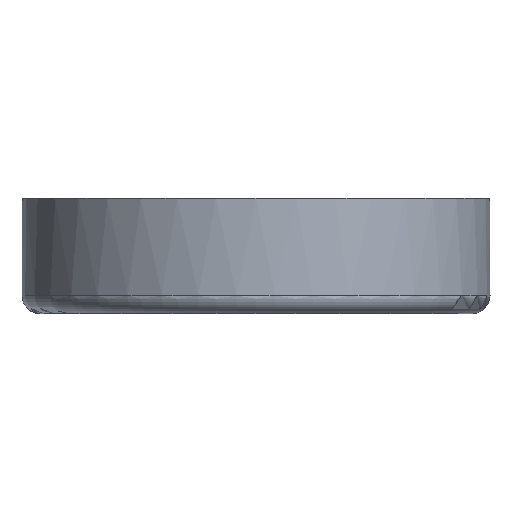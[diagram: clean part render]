
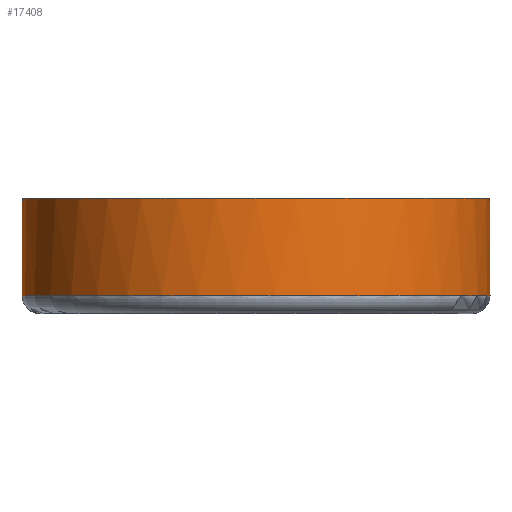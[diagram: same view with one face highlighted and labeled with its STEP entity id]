
A CAD part, front view. The second image highlights one B-rep face of the part: STEP entity #17408.
In plain terms, the highlighted cylindrical face has radius 65 mm (diameter 130 mm), a partial arc.
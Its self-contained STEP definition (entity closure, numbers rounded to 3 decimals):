
#1462=CARTESIAN_POINT('',(0.,0.,32.));
#1463=DIRECTION('',(0.,0.,-1.));
#1464=DIRECTION('',(0.788,0.615,0.));
#1465=AXIS2_PLACEMENT_3D('',#1462,#1463,#1464);
#1558=DIRECTION('',(0.,0.,-1.));
#1559=VECTOR('',#1558,27.);
#1560=CARTESIAN_POINT('',(51.235,40.,32.));
#1561=LINE('',#1560,#1559);
#1565=DIRECTION('',(0.,0.,1.));
#1566=VECTOR('',#1565,27.);
#1567=CARTESIAN_POINT('',(-51.235,40.,5.));
#1568=LINE('',#1567,#1566);
#6438=CARTESIAN_POINT('',(0.,0.,5.));
#6439=DIRECTION('',(0.,0.,-1.));
#6440=DIRECTION('',(-1.,0.,0.));
#6441=AXIS2_PLACEMENT_3D('',#6438,#6439,#6440);
#6446=CARTESIAN_POINT('',(0.,0.,5.));
#6447=DIRECTION('',(0.,0.,-1.));
#6448=DIRECTION('',(0.788,-0.615,0.));
#6449=AXIS2_PLACEMENT_3D('',#6446,#6447,#6448);
#6454=CARTESIAN_POINT('',(0.,0.,5.));
#6455=DIRECTION('',(0.,0.,-1.));
#6456=DIRECTION('',(1.,0.,0.));
#6457=AXIS2_PLACEMENT_3D('',#6454,#6455,#6456);
#6462=CARTESIAN_POINT('',(0.,0.,5.));
#6463=DIRECTION('',(0.,0.,-1.));
#6464=DIRECTION('',(0.788,0.615,0.));
#6465=AXIS2_PLACEMENT_3D('',#6462,#6463,#6464);
#15159=CARTESIAN_POINT('',(-51.235,40.,5.));
#15161=VERTEX_POINT('',#15159);
#15163=CARTESIAN_POINT('',(51.235,40.,5.));
#15165=VERTEX_POINT('',#15163);
#15167=CARTESIAN_POINT('',(65.,0.,5.));
#15168=VERTEX_POINT('',#15167);
#15169=CARTESIAN_POINT('',(51.235,-40.,5.));
#15170=VERTEX_POINT('',#15169);
#15171=CARTESIAN_POINT('',(-65.,0.,5.));
#15172=VERTEX_POINT('',#15171);
#15217=CARTESIAN_POINT('',(-51.235,40.,32.));
#15218=VERTEX_POINT('',#15217);
#15219=CARTESIAN_POINT('',(51.235,40.,32.));
#15220=VERTEX_POINT('',#15219);
#17388=CARTESIAN_POINT('',(0.,0.,0.));
#17389=DIRECTION('',(0.,0.,-1.));
#17390=DIRECTION('',(1.,0.,0.));
#17391=AXIS2_PLACEMENT_3D('',#17388,#17389,#17390);
#17392=CYLINDRICAL_SURFACE('',#17391,65.);
#17394=ORIENTED_EDGE('',*,*,#17393,.T.);
#17395=ORIENTED_EDGE('',*,*,#17362,.F.);
#17397=ORIENTED_EDGE('',*,*,#17396,.T.);
#17399=ORIENTED_EDGE('',*,*,#17398,.T.);
#17401=ORIENTED_EDGE('',*,*,#17400,.T.);
#17403=ORIENTED_EDGE('',*,*,#17402,.T.);
#17405=ORIENTED_EDGE('',*,*,#17404,.T.);
#17406=EDGE_LOOP('',(#17394,#17395,#17397,#17399,#17401,#17403,#17405));
#17407=FACE_OUTER_BOUND('',#17406,.F.);
#1466=CIRCLE('',#1465,65.);
#6442=CIRCLE('',#6441,65.);
#6450=CIRCLE('',#6449,65.);
#6458=CIRCLE('',#6457,65.);
#6466=CIRCLE('',#6465,65.);
#17362=EDGE_CURVE('',#15220,#15218,#1466,.T.);
#17393=EDGE_CURVE('',#15161,#15218,#1568,.T.);
#17396=EDGE_CURVE('',#15220,#15165,#1561,.T.);
#17398=EDGE_CURVE('',#15165,#15168,#6466,.T.);
#17400=EDGE_CURVE('',#15168,#15170,#6458,.T.);
#17402=EDGE_CURVE('',#15170,#15172,#6450,.T.);
#17404=EDGE_CURVE('',#15172,#15161,#6442,.T.);
#17408=ADVANCED_FACE('',(#17407),#17392,.T.);
